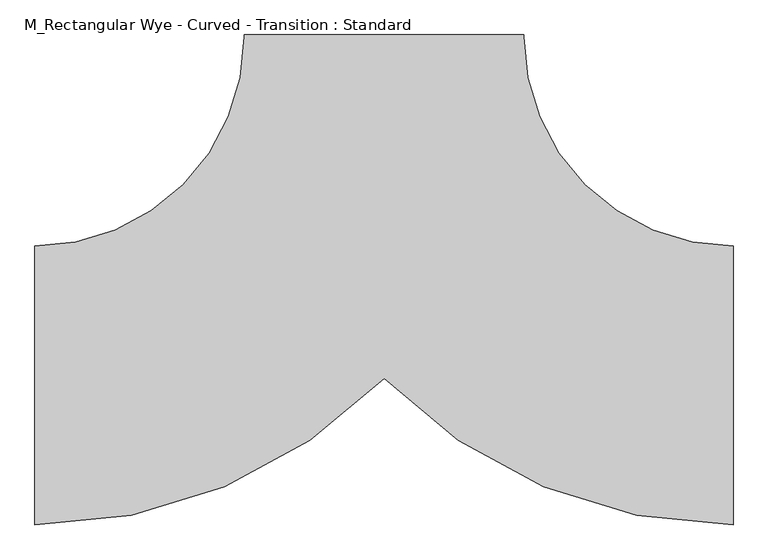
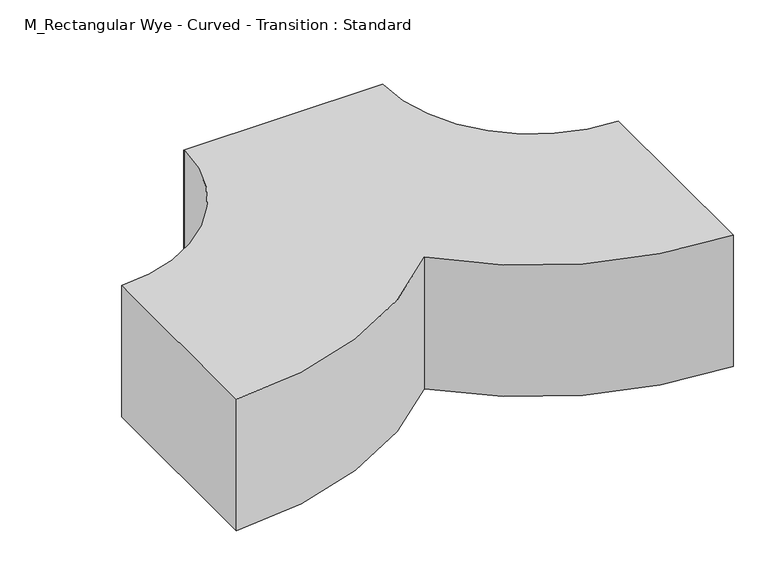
"""IFC4 building model written with IfcOpenShell, lengths in millimetres: duct fitting geometry, M_Rectangular Wye - Curved - Transition : Standard."""

import ifcopenshell
import ifcopenshell.guid

model = None  # the IFC model being written
_history = None  # IfcOwnerHistory: only IFC2X3 demands one
_inside = {}  # id of a spatial element -> (the spatial element, [elements in it])
_under = {}  # id of a project, library or spatial element -> (it, [spatial elements below it])
_declared = {}  # id of a project -> (the project, [libraries it declares])
_typed = {}  # id of a type object -> (the type object, [elements of that type])
_made_of = {}  # id of a material, layer set ... -> (it, [elements and type objects made of it])


def new_model(schema):
    """Start an empty IFC model of exactly this schema.

    Asked for "IFC4X3", IfcOpenShell would pick the latest addendum, in which some entities
    have other attributes; the version numbers below select the first issue.
    IFC2X3 requires an IfcOwnerHistory on every rooted entity: one is made here for all.
    """
    global model, _history
    if schema == "IFC4X3":
        model = ifcopenshell.file(schema_version=(4, 3, 0, 0))
    else:
        model = ifcopenshell.file(schema=schema)
    _inside.clear()
    _under.clear()
    _declared.clear()
    _typed.clear()
    _made_of.clear()
    _history = None
    if model.schema == "IFC2X3":
        org = make("IfcOrganization", Name="unknown")
        user = make(
            "IfcPersonAndOrganization",
            ThePerson=make("IfcPerson", FamilyName="unknown"),
            TheOrganization=org,
        )
        app = make(
            "IfcApplication",
            ApplicationDeveloper=org,
            Version="unknown",
            ApplicationFullName="unknown",
            ApplicationIdentifier="unknown",
        )
        _history = make(
            "IfcOwnerHistory",
            OwningUser=user,
            OwningApplication=app,
            ChangeAction="ADDED",
            CreationDate=0,
        )
    return model


def make(cls, **values):
    """One entity of the class cls with the attributes given. An attribute that is None is left unset."""
    return model.create_entity(
        cls, **{name: value for name, value in values.items() if value is not None}
    )


def rooted(cls, **values):
    """An entity with a GlobalId (a new one), such as an element, a storey or a relation."""
    return make(cls, GlobalId=ifcopenshell.guid.new(), OwnerHistory=_history, **values)


def si_unit(unit_type, name, prefix=None):
    """IfcSIUnit, for example si_unit("LENGTHUNIT", "METRE", prefix="MILLI")."""
    return make("IfcSIUnit", UnitType=unit_type, Prefix=prefix, Name=name)


def assignment(units):
    """IfcUnitAssignment: the units of a project."""
    return None if units is None else make("IfcUnitAssignment", Units=units)


def point(xyz):
    """IfcCartesianPoint."""
    return None if xyz is None else make("IfcCartesianPoint", Coordinates=xyz)


def direction(xyz):
    """IfcDirection."""
    return None if xyz is None else make("IfcDirection", DirectionRatios=xyz)


def frame(location, z_axis=None, x_axis=None):
    """IfcAxis2Placement3D, a coordinate frame: its origin and axes. An axis left out is left unset."""
    return make(
        "IfcAxis2Placement3D",
        Location=point(location),
        Axis=direction(z_axis),
        RefDirection=direction(x_axis),
    )


def frame_2d(location, x_axis=None):
    """IfcAxis2Placement2D, a coordinate frame in the plane: its origin and x axis."""
    return make(
        "IfcAxis2Placement2D", Location=point(location), RefDirection=direction(x_axis)
    )


def origin():
    """The frame at (0, 0, 0) with its axes left unset."""
    return frame((0.0, 0.0, 0.0))


def place(relative_to, where):
    """IfcLocalPlacement: puts the frame where relative to a parent placement (None: the world)."""
    return make(
        "IfcLocalPlacement", PlacementRelTo=relative_to, RelativePlacement=where
    )


def context(
    kind, dimensions, precision=None, world=None, true_north=None, identifier=None
):
    """IfcGeometricRepresentationContext, for example the 3D "Model" context."""
    return make(
        "IfcGeometricRepresentationContext",
        ContextIdentifier=identifier,
        ContextType=kind,
        CoordinateSpaceDimension=dimensions,
        Precision=precision,
        WorldCoordinateSystem=world,
        TrueNorth=true_north,
    )


def project(units=None, contexts=None):
    """IfcProject with its units and contexts."""
    return rooted(
        "IfcProject",
        Name="project",
        RepresentationContexts=contexts,
        UnitsInContext=assignment(units),
    )


def spatial(cls, under=None, at=None, **own):
    """A site, building, storey or space (cls), placed at a placement, below another one or the project."""
    s = rooted(cls, ObjectPlacement=at, **own)
    if under is not None:
        _under.setdefault(under.id(), (under, []))[1].append(s)
    return s


def polyline(points):
    """IfcPolyline through the points."""
    return make("IfcPolyline", Points=[point(p) for p in points])


def circle_curve(where, radius):
    """IfcCircle in the frame where."""
    return make("IfcCircle", Position=where, Radius=radius)


def trimmed(basis, trim1, trim2, sense, master):
    """IfcTrimmedCurve: the piece of a basis curve between two trims."""
    return make(
        "IfcTrimmedCurve",
        BasisCurve=basis,
        Trim1=trim1,
        Trim2=trim2,
        SenseAgreement=sense,
        MasterRepresentation=master,
    )


def segment(curve, same_sense, transition):
    """IfcCompositeCurveSegment."""
    return make(
        "IfcCompositeCurveSegment",
        Transition=transition,
        SameSense=same_sense,
        ParentCurve=curve,
    )


def composite_curve(segments, self_intersect=None):
    """IfcCompositeCurve: segments joined end to end."""
    return make("IfcCompositeCurve", Segments=segments, SelfIntersect=self_intersect)


def outline(outer, holes=None, kind="AREA"):
    """IfcArbitraryClosedProfileDef: a profile drawn as a closed curve; with holes, ...WithVoids."""
    if holes is None:
        return make("IfcArbitraryClosedProfileDef", ProfileType=kind, OuterCurve=outer)
    return make(
        "IfcArbitraryProfileDefWithVoids",
        ProfileType=kind,
        OuterCurve=outer,
        InnerCurves=holes,
    )


def extrude(swept, where, along, depth):
    """IfcExtrudedAreaSolid: the profile swept, set in the frame where, extruded along a direction by depth."""
    return make(
        "IfcExtrudedAreaSolid",
        SweptArea=swept,
        Position=where,
        ExtrudedDirection=direction(along),
        Depth=depth,
    )


def shape(context_of_items, identifier, shape_type, items):
    """IfcShapeRepresentation: the items that make up one representation, for example the "Body"."""
    return make(
        "IfcShapeRepresentation",
        ContextOfItems=context_of_items,
        RepresentationIdentifier=identifier,
        RepresentationType=shape_type,
        Items=items,
    )


def source(mapping_origin, context_of_items, identifier, shape_type, items):
    """IfcRepresentationMap: a shape defined once, which mapped items show again and again."""
    return make(
        "IfcRepresentationMap",
        MappingOrigin=mapping_origin,
        MappedRepresentation=shape(context_of_items, identifier, shape_type, items),
    )


def transform(
    local_origin,
    x_axis=None,
    y_axis=None,
    z_axis=None,
    scale=None,
    scale2=None,
    scale3=None,
    uniform=True,
):
    """IfcCartesianTransformationOperator3D, or its non-uniform kind. x_axis, y_axis, z_axis: its Axis1, 2, 3."""
    if uniform:
        return make(
            "IfcCartesianTransformationOperator3D",
            Axis1=direction(x_axis),
            Axis2=direction(y_axis),
            LocalOrigin=point(local_origin),
            Scale=scale,
            Axis3=direction(z_axis),
        )
    return make(
        "IfcCartesianTransformationOperator3DnonUniform",
        Axis1=direction(x_axis),
        Axis2=direction(y_axis),
        LocalOrigin=point(local_origin),
        Scale=scale,
        Axis3=direction(z_axis),
        Scale2=scale2,
        Scale3=scale3,
    )


def mapped(mapping_source, mapping_target):
    """IfcMappedItem: shows the shape of a source again, moved by a transform."""
    return make(
        "IfcMappedItem", MappingSource=mapping_source, MappingTarget=mapping_target
    )


def made_of(thing, what):
    """Note that an element or type object is made of a material, layer set ...; save() writes the relation."""
    if what is not None:
        _made_of.setdefault(what.id(), (what, []))[1].append(thing)
    return thing


def element(
    cls,
    number,
    at=None,
    inside=None,
    cuts=None,
    type_object=None,
    material=None,
    context=None,
    identifier="Body",
    shape_type=None,
    held_by="IfcProductDefinitionShape",
    body=None,
    shapes=None,
    **own,
):
    """One element of the class cls, such as IfcWall. Its Tag is "e" and its number.

    at: its placement. inside: the storey or other place that contains it. cuts: it is an
    opening in that element (IfcRelVoidsElement). A single representation is given by context,
    identifier, shape_type and body (its items); several are given by shapes. held_by: the class
    of the entity that holds the representations. save() writes the other relations.
    """
    e = rooted(cls, Tag="e%d" % number, ObjectPlacement=at, **own)
    if body is not None:
        shapes = [shape(context, identifier, shape_type, body)]
    if shapes is not None:
        e.Representation = make(held_by, Representations=shapes)
    if inside is not None:
        _inside.setdefault(inside.id(), (inside, []))[1].append(e)
    if cuts is not None:
        rooted(
            "IfcRelVoidsElement", RelatingBuildingElement=cuts, RelatedOpeningElement=e
        )
    if type_object is not None:
        _typed.setdefault(type_object.id(), (type_object, []))[1].append(e)
    return made_of(e, material)


def aggregate(whole, parts):
    """IfcRelAggregates: a whole, such as a stair, and the parts it consists of."""
    return rooted("IfcRelAggregates", RelatingObject=whole, RelatedObjects=parts)


def save(model, path):
    """Write the relations noted so far, then the file.

    IfcRelAggregates (storeys below a building ...), IfcRelContainedInSpatialStructure (elements
    in a storey), IfcRelDefinesByType, IfcRelAssociatesMaterial and IfcRelDeclares: one each for
    every whole, place, type object, material and project.
    """
    for whole, parts in _under.values():
        aggregate(whole, parts)
    for where, things in _inside.values():
        rooted(
            "IfcRelContainedInSpatialStructure",
            RelatedElements=things,
            RelatingStructure=where,
        )
    for kind, things in _typed.values():
        rooted("IfcRelDefinesByType", RelatedObjects=things, RelatingType=kind)
    for what, things in _made_of.values():
        rooted("IfcRelAssociatesMaterial", RelatedObjects=things, RelatingMaterial=what)
    for by, libraries in _declared.values():
        rooted("IfcRelDeclares", RelatingContext=by, RelatedDefinitions=libraries)
    model.write(path)


def m_rectangular_wye_curved_transition_standard_59a28dac(model_context):
    return source(origin(), model_context, "Body", "SweptSolid", [
        extrude(outline(composite_curve([segment(polyline([(-625.0, -250.0), (-625.0, 250.0)]), True, "CONTINUOUS"), segment(trimmed(circle_curve(frame_2d((-625.0, 625.0)), 375.0), [point((-625.0, 250.0))], [point((-250.0, 625.0))], True, "CARTESIAN"), True, "CONTINUOUS"), segment(polyline([(-250.0, 625.0), (-250.0, 628.175), (250.0, 628.175), (250.0, 625.0)]), True, "CONTINUOUS"), segment(trimmed(circle_curve(frame_2d((625.0, 625.0)), 375.0), [point((250.0, 625.0))], [point((625.0, 250.0))], True, "CARTESIAN"), True, "CONTINUOUS"), segment(polyline([(625.0, 250.0), (625.0, -250.0)]), True, "CONTINUOUS"), segment(trimmed(circle_curve(frame_2d((625.0, 625.0)), 875.0), [point((625.0, -250.0))], [point((0.0, 12.6275643))], False, "CARTESIAN"), True, "CONTINUOUS"), segment(trimmed(circle_curve(frame_2d((-625.0, 625.0)), 875.0), [point((0.0, 12.6275643))], [point((-625.0, -250.0))], False, "CARTESIAN"), True, "CONTINUOUS")], self_intersect=False)), frame((0.0, 0.0, -175.0), z_axis=(0.0, 0.0, 1.0), x_axis=(1.0, 0.0, 0.0)), (0.0, 0.0, 1.0), 350.0),
    ])


if __name__ == "__main__":
    model = new_model("IFC4")
    model_context = context("Model", 3, world=origin())
    ifc_project = project(units=[si_unit("LENGTHUNIT", "METRE", prefix="MILLI")], contexts=[model_context])
    site = spatial("IfcSite", under=ifc_project)
    building = spatial("IfcBuilding", under=site)
    placement = place(None, origin())
    m_rectangular_wye_curved_transition_standard_shape = m_rectangular_wye_curved_transition_standard_59a28dac(model_context)
    element("IfcDuctFitting", 1, ObjectType="M_Rectangular Wye - Curved - Transition : Standard", at=placement, inside=building, context=model_context, shape_type="MappedRepresentation", body=[
        mapped(m_rectangular_wye_curved_transition_standard_shape, transform((0.0, 0.0, 0.0), x_axis=(1.0, 0.0, 0.0), y_axis=(0.0, 1.0, 0.0), z_axis=(0.0, 0.0, 1.0))),
    ])
    save(model, "model.ifc")
